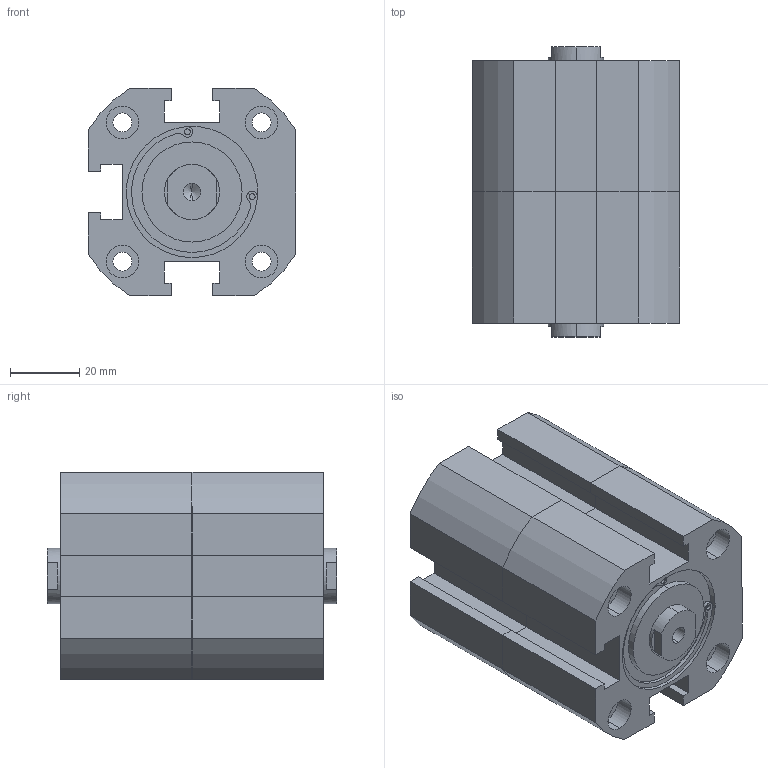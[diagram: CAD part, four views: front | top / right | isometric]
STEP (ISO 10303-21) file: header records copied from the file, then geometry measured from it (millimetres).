
FILE_DESCRIPTION (( 'STEP AP203' ), '1' );
FILE_NAME ('XCD7-40-10-10.STEP', '2016-08-05T01:39:49', ( '' ), ( '' ), 'SwSTEP 2.0', 'SolidWorks 2014', '' );
FILE_SCHEMA (( 'CONFIG_CONTROL_DESIGN' ));
Length unit declared in the file: millimetre
Products named in the file (2): XC#2-40-10; XCD7-40-10-10
Assembly tree (2 placements, depth 2):
  XCD7-40-10-10
    XC#2-40-10  x2
Bounding box: 60 x 84 x 60 mm (x, y, z)
Volume: 207601.3 mm3; surface area: 43129.9 mm2
Topology: 2 solids, 2 shells, 228 faces, 566 edges, 366 vertices
Faces by surface type: cylinder 108, plane 100, cone 20
Entity records: 3625 total; most frequent: DIRECTION 635, CARTESIAN_POINT 579, ORIENTED_EDGE 554, EDGE_CURVE 277, AXIS2_PLACEMENT_3D 239, VERTEX_POINT 183, VECTOR 157, LINE 157
